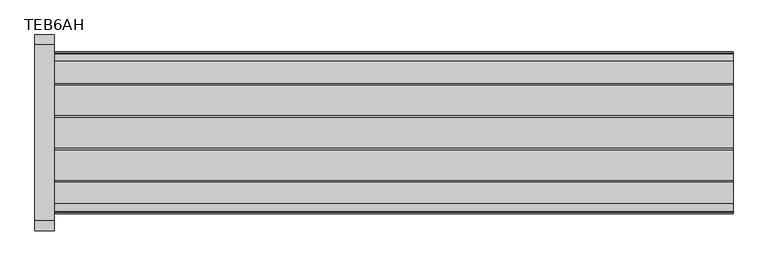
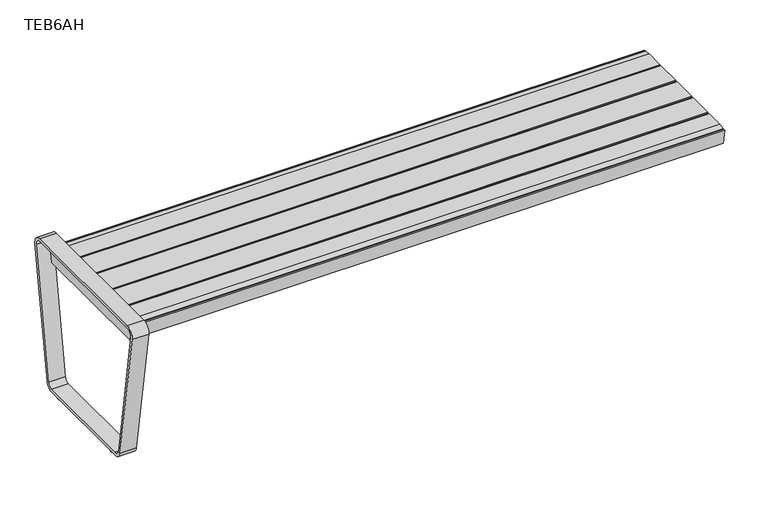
"""IFC4 building model written with IfcOpenShell, lengths in millimetres: furniture geometry, Stance_HC-Terrace-Straight_Bench_HDPE : TEB6AH."""

from ifc_helpers import new_model, si_unit, point, frame, frame_2d, origin, origin_with_axes, place, context, project, spatial, polyline, circle_curve, trimmed, segment, composite_curve, outline, extrude, source, transform, mapped, element, save


def teb6ah_ea40309d(model_context):
    return source(origin(), model_context, "Body", "SweptSolid", [
        extrude(outline(polyline([(1455.7375, -50.90414), (1455.7375, -467.25586), (1366.8375, -467.25586), (1366.8375, -50.90414), (1455.7375, -50.90414)])), frame((0.0, 0.0, 432.435), z_axis=(0.0, 0.0, 1.0), x_axis=(1.0, 0.0, 0.0)), (0.0, 0.0, 1.0), 3.175),
        extrude(outline(composite_curve([segment(polyline([(-467.25586, 432.435), (-50.90414, 432.435), (-57.0623598, 397.51)]), True, "CONTINUOUS"), segment(trimmed(circle_curve(frame_2d((-259.08, 1997.8972816)), 1613.0872816), [point((-57.0623598, 397.51))], [point((-461.0976402, 397.51))], False, "CARTESIAN"), True, "CONTINUOUS"), segment(polyline([(-461.0976402, 397.51), (-467.25586, 432.435)]), True, "CONTINUOUS")], self_intersect=False)), frame((1408.8999, 0.0, 0.0), z_axis=(1.0, 0.0, 0.0), x_axis=(0.0, 1.0, 0.0)), (0.0, 0.0, 1.0), 4.7752),
        extrude(outline(polyline([(1219.2, -50.90414), (1219.2, -467.25586), (1130.3, -467.25586), (1130.3, -50.90414), (1219.2, -50.90414)])), frame((0.0, 0.0, 432.435), z_axis=(0.0, 0.0, 1.0), x_axis=(1.0, 0.0, 0.0)), (0.0, 0.0, 1.0), 3.175),
        extrude(outline(composite_curve([segment(polyline([(-467.25586, 432.435), (-50.90414, 432.435), (-57.0623598, 397.51)]), True, "CONTINUOUS"), segment(trimmed(circle_curve(frame_2d((-259.08, 1997.8972816)), 1613.0872816), [point((-57.0623598, 397.51))], [point((-461.0976402, 397.51))], False, "CARTESIAN"), True, "CONTINUOUS"), segment(polyline([(-461.0976402, 397.51), (-467.25586, 432.435)]), True, "CONTINUOUS")], self_intersect=False)), frame((1172.3624, 0.0, 0.0), z_axis=(1.0, 0.0, 0.0), x_axis=(0.0, 1.0, 0.0)), (0.0, 0.0, 1.0), 4.7752),
        extrude(outline(polyline([(982.6625, -50.90414), (982.6625, -467.25586), (893.7625, -467.25586), (893.7625, -50.90414), (982.6625, -50.90414)])), frame((0.0, 0.0, 432.435), z_axis=(0.0, 0.0, 1.0), x_axis=(1.0, 0.0, 0.0)), (0.0, 0.0, 1.0), 3.175),
        extrude(outline(composite_curve([segment(polyline([(-467.25586, 432.435), (-50.90414, 432.435), (-57.0623598, 397.51)]), True, "CONTINUOUS"), segment(trimmed(circle_curve(frame_2d((-259.08, 1997.8972816)), 1613.0872816), [point((-57.0623598, 397.51))], [point((-461.0976402, 397.51))], False, "CARTESIAN"), True, "CONTINUOUS"), segment(polyline([(-461.0976402, 397.51), (-467.25586, 432.435)]), True, "CONTINUOUS")], self_intersect=False)), frame((935.8249, 0.0, 0.0), z_axis=(1.0, 0.0, 0.0), x_axis=(0.0, 1.0, 0.0)), (0.0, 0.0, 1.0), 4.7752),
        extrude(outline(polyline([(746.125, -50.90414), (746.125, -467.25586), (657.225, -467.25586), (657.225, -50.90414), (746.125, -50.90414)])), frame((0.0, 0.0, 432.435), z_axis=(0.0, 0.0, 1.0), x_axis=(1.0, 0.0, 0.0)), (0.0, 0.0, 1.0), 3.175),
        extrude(outline(composite_curve([segment(polyline([(-467.25586, 432.435), (-50.90414, 432.435), (-57.0623598, 397.51)]), True, "CONTINUOUS"), segment(trimmed(circle_curve(frame_2d((-259.08, 1997.8972816)), 1613.0872816), [point((-57.0623598, 397.51))], [point((-461.0976402, 397.51))], False, "CARTESIAN"), True, "CONTINUOUS"), segment(polyline([(-461.0976402, 397.51), (-467.25586, 432.435)]), True, "CONTINUOUS")], self_intersect=False)), frame((699.2874, 0.0, 0.0), z_axis=(1.0, 0.0, 0.0), x_axis=(0.0, 1.0, 0.0)), (0.0, 0.0, 1.0), 4.7752),
        extrude(outline(polyline([(509.5875, -50.90414), (509.5875, -467.25586), (420.6875, -467.25586), (420.6875, -50.90414), (509.5875, -50.90414)])), frame((0.0, 0.0, 432.435), z_axis=(0.0, 0.0, 1.0), x_axis=(1.0, 0.0, 0.0)), (0.0, 0.0, 1.0), 3.175),
        extrude(outline(composite_curve([segment(polyline([(-467.25586, 432.435), (-50.90414, 432.435), (-57.0623598, 397.51)]), True, "CONTINUOUS"), segment(trimmed(circle_curve(frame_2d((-259.08, 1997.8972816)), 1613.0872816), [point((-57.0623598, 397.51))], [point((-461.0976402, 397.51))], False, "CARTESIAN"), True, "CONTINUOUS"), segment(polyline([(-461.0976402, 397.51), (-467.25586, 432.435)]), True, "CONTINUOUS")], self_intersect=False)), frame((462.7499, 0.0, 0.0), z_axis=(1.0, 0.0, 0.0), x_axis=(0.0, 1.0, 0.0)), (0.0, 0.0, 1.0), 4.7752),
        extrude(outline(polyline([(1692.275, -50.90414), (1692.275, -467.25586), (1603.375, -467.25586), (1603.375, -50.90414), (1692.275, -50.90414)])), frame((0.0, 0.0, 432.435), z_axis=(0.0, 0.0, 1.0), x_axis=(1.0, 0.0, 0.0)), (0.0, 0.0, 1.0), 3.175),
        extrude(outline(composite_curve([segment(polyline([(-467.25586, 432.435), (-50.90414, 432.435), (-57.0623598, 397.51)]), True, "CONTINUOUS"), segment(trimmed(circle_curve(frame_2d((-259.08, 1997.8972816)), 1613.0872816), [point((-57.0623598, 397.51))], [point((-461.0976402, 397.51))], False, "CARTESIAN"), True, "CONTINUOUS"), segment(polyline([(-461.0976402, 397.51), (-467.25586, 432.435)]), True, "CONTINUOUS")], self_intersect=False)), frame((1645.4374, 0.0, 0.0), z_axis=(1.0, 0.0, 0.0), x_axis=(0.0, 1.0, 0.0)), (0.0, 0.0, 1.0), 4.7752),
        extrude(outline(polyline([(273.05, -50.90414), (273.05, -467.25586), (184.15, -467.25586), (184.15, -50.90414), (273.05, -50.90414)])), frame((0.0, 0.0, 432.435), z_axis=(0.0, 0.0, 1.0), x_axis=(1.0, 0.0, 0.0)), (0.0, 0.0, 1.0), 3.175),
        extrude(outline(composite_curve([segment(polyline([(-467.25586, 432.435), (-50.90414, 432.435), (-57.0623598, 397.51)]), True, "CONTINUOUS"), segment(trimmed(circle_curve(frame_2d((-259.08, 1997.8972816)), 1613.0872816), [point((-57.0623598, 397.51))], [point((-461.0976402, 397.51))], False, "CARTESIAN"), True, "CONTINUOUS"), segment(polyline([(-461.0976402, 397.51), (-467.25586, 432.435)]), True, "CONTINUOUS")], self_intersect=False)), frame((226.2124, 0.0, 0.0), z_axis=(1.0, 0.0, 0.0), x_axis=(0.0, 1.0, 0.0)), (0.0, 0.0, 1.0), 4.7752),
        extrude(outline(polyline([(-476.5675, 457.8350949), (-41.5925, 457.8350949), (-52.2294419, 397.51), (-465.9305581, 397.51), (-476.5675, 457.8350949)])), frame((22.225, 0.0, 0.0), z_axis=(1.0, 0.0, 0.0), x_axis=(0.0, 1.0, 0.0)), (0.0, 0.0, 1.0), 6.35),
        extrude(outline(composite_curve([segment(trimmed(circle_curve(frame_2d((25.4, -399.75536)), 22.225), [point((3.175, -399.75536))], [point((47.625, -399.75536))], False, "CARTESIAN"), True, "CONTINUOUS"), segment(trimmed(circle_curve(frame_2d((25.4, -399.75536)), 22.225), [point((47.625, -399.75536))], [point((3.175, -399.75536))], False, "CARTESIAN"), True, "CONTINUOUS")], self_intersect=False)), origin_with_axes(), (0.0, 0.0, 1.0), 6.35),
        extrude(outline(composite_curve([segment(trimmed(circle_curve(frame_2d((25.4, -118.40464)), 22.225), [point((3.175, -118.40464))], [point((47.625, -118.40464))], False, "CARTESIAN"), True, "CONTINUOUS"), segment(trimmed(circle_curve(frame_2d((25.4, -118.40464)), 22.225), [point((47.625, -118.40464))], [point((3.175, -118.40464))], False, "CARTESIAN"), True, "CONTINUOUS")], self_intersect=False)), origin_with_axes(), (0.0, 0.0, 1.0), 6.35),
        extrude(outline(composite_curve([segment(polyline([(-493.0697614, 467.3600949), (-25.0902386, 467.3600949)]), True, "CONTINUOUS"), segment(trimmed(circle_curve(frame_2d((-25.0902386, 441.96)), 25.4000949), [point((-25.0902386, 467.3600949))], [point((-0.002861, 437.9865497))], False, "CARTESIAN"), True, "CONTINUOUS"), segment(polyline([(-0.002861, 437.9865497), (-64.9737422, 27.7765497)]), True, "CONTINUOUS"), segment(trimmed(circle_curve(frame_2d((-90.0611198, 31.75)), 25.4000949), [point((-64.9737422, 27.7765497))], [point((-90.0611198, 6.3499051))], False, "CARTESIAN"), True, "CONTINUOUS"), segment(polyline([(-90.0611198, 6.3499051), (-428.0988802, 6.3499051)]), True, "CONTINUOUS"), segment(trimmed(circle_curve(frame_2d((-428.0988802, 31.75)), 25.4000949), [point((-428.0988802, 6.3499051))], [point((-453.1862578, 27.7765497))], False, "CARTESIAN"), True, "CONTINUOUS"), segment(polyline([(-453.1862578, 27.7765497), (-518.157139, 437.9865497)]), True, "CONTINUOUS"), segment(trimmed(circle_curve(frame_2d((-493.0697614, 441.96)), 25.4000949), [point((-518.157139, 437.9865497))], [point((-493.0697614, 467.3600949))], False, "CARTESIAN"), True, "CONTINUOUS")], self_intersect=False), holes=[composite_curve([segment(polyline([(-74.3814737, 29.266588), (-9.4105924, 439.476588)]), True, "CONTINUOUS"), segment(trimmed(circle_curve(frame_2d((-25.0902386, 441.96)), 15.8750949), [point((-9.4105924, 439.476588))], [point((-25.0902386, 457.8350949))], True, "CARTESIAN"), True, "CONTINUOUS"), segment(polyline([(-25.0902386, 457.8350949), (-493.0697614, 457.8350949)]), True, "CONTINUOUS"), segment(trimmed(circle_curve(frame_2d((-493.0697614, 441.96)), 15.8750949), [point((-493.0697614, 457.8350949))], [point((-508.7494076, 439.476588))], True, "CARTESIAN"), True, "CONTINUOUS"), segment(polyline([(-508.7494076, 439.476588), (-443.7785263, 29.266588)]), True, "CONTINUOUS"), segment(trimmed(circle_curve(frame_2d((-428.0988802, 31.75)), 15.8750949), [point((-443.7785263, 29.266588))], [point((-428.0988802, 15.8749051))], True, "CARTESIAN"), True, "CONTINUOUS"), segment(polyline([(-428.0988802, 15.8749051), (-90.0611198, 15.8749051)]), True, "CONTINUOUS"), segment(trimmed(circle_curve(frame_2d((-90.0611198, 31.75)), 15.8750949), [point((-90.0611198, 15.8749051))], [point((-74.3814737, 29.266588))], True, "CARTESIAN"), True, "CONTINUOUS")], self_intersect=False)]), frame((0.0, 0.0, 0.0), z_axis=(1.0, 0.0, 0.0), x_axis=(0.0, 1.0, 0.0)), (0.0, 0.0, 1.0), 50.8),
        extrude(outline(polyline([(-57.0610609, 397.510164), (-461.0989391, 397.510164), (-467.2574614, 432.4368793), (-50.9025386, 432.4368793), (-57.0610609, 397.510164)])), frame((1846.2625, 0.0, 0.0), z_axis=(1.0, 0.0, 0.0), x_axis=(0.0, 1.0, 0.0)), (0.0, 0.0, 1.0), 4.7625),
        extrude(outline(polyline([(-57.0610609, 397.510164), (-461.0989391, 397.510164), (-467.2574614, 432.4368793), (-50.9025386, 432.4368793), (-57.0610609, 397.510164)])), frame((28.575, 0.0, 0.0), z_axis=(1.0, 0.0, 0.0), x_axis=(0.0, 1.0, 0.0)), (0.0, 0.0, 1.0), 4.7625),
        extrude(outline(polyline([(0.0, -4.7625), (0.0, 0.0), (1822.45, 0.0), (1822.45, -4.7625), (0.0, -4.7625)])), frame((1851.025, -57.0623598, 397.51), z_axis=(0.0, 0.17364817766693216, 0.9848077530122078), x_axis=(-1.0, 0.0, 0.0)), (0.0, 0.0, 1.0), 48.35906),
        extrude(outline(polyline([(0.0, -4.7625), (0.0, 0.0), (1822.45, 0.0), (1822.45, -4.7625), (0.0, -4.7625)])), frame((1851.025, -465.7877871, 396.6830006), z_axis=(0.0, -0.17364817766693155, 0.9848077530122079), x_axis=(-1.0, 0.0, 0.0)), (0.0, 0.0, 1.0), 48.35906),
        extrude(outline(polyline([(-51.1175, 445.2927764), (-52.8248347, 435.61), (-465.3351653, 435.61), (-467.0425, 445.2927764), (-447.9925, 448.31), (-390.8425, 448.31), (-390.8425, 445.135), (-384.4925, 445.135), (-384.4925, 448.31), (-305.1175, 448.31), (-305.1175, 445.135), (-298.7675, 445.135), (-298.7675, 448.31), (-219.3925, 448.31), (-219.3925, 445.135), (-213.0425, 445.135), (-213.0425, 448.31), (-133.6675, 448.31), (-133.6675, 445.135), (-127.3175, 445.135), (-127.3175, 448.31), (-70.1675, 448.31), (-51.1175, 445.2927764)])), frame((31.75, 0.0, 0.0), z_axis=(1.0, 0.0, 0.0), x_axis=(0.0, 1.0, 0.0)), (0.0, 0.0, 1.0), 1819.275),
    ])


if __name__ == "__main__":
    model = new_model("IFC4")
    model_context = context("Model", 3, world=origin())
    ifc_project = project(units=[si_unit("LENGTHUNIT", "METRE", prefix="MILLI")], contexts=[model_context])
    site = spatial("IfcSite", under=ifc_project)
    building = spatial("IfcBuilding", under=site)
    placement = place(None, origin())
    teb6ah_shape = teb6ah_ea40309d(model_context)
    element("IfcFurniture", 1, ObjectType="Stance_HC-Terrace-Straight_Bench_HDPE : TEB6AH", at=placement, inside=building, context=model_context, shape_type="MappedRepresentation", body=[
        mapped(teb6ah_shape, transform((0.0, 0.0, 0.0), x_axis=(1.0, 0.0, 0.0), y_axis=(0.0, 1.0, 0.0), z_axis=(0.0, 0.0, 1.0))),
    ])
    save(model, "model.ifc")
